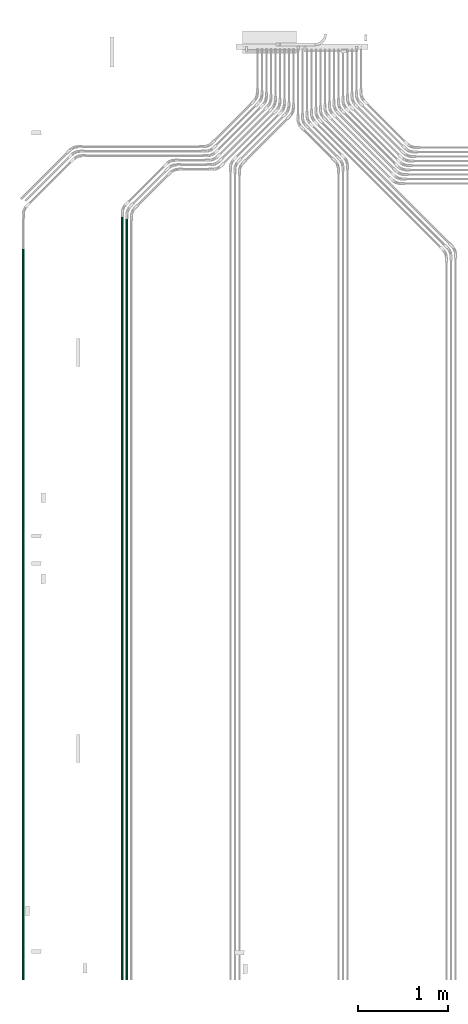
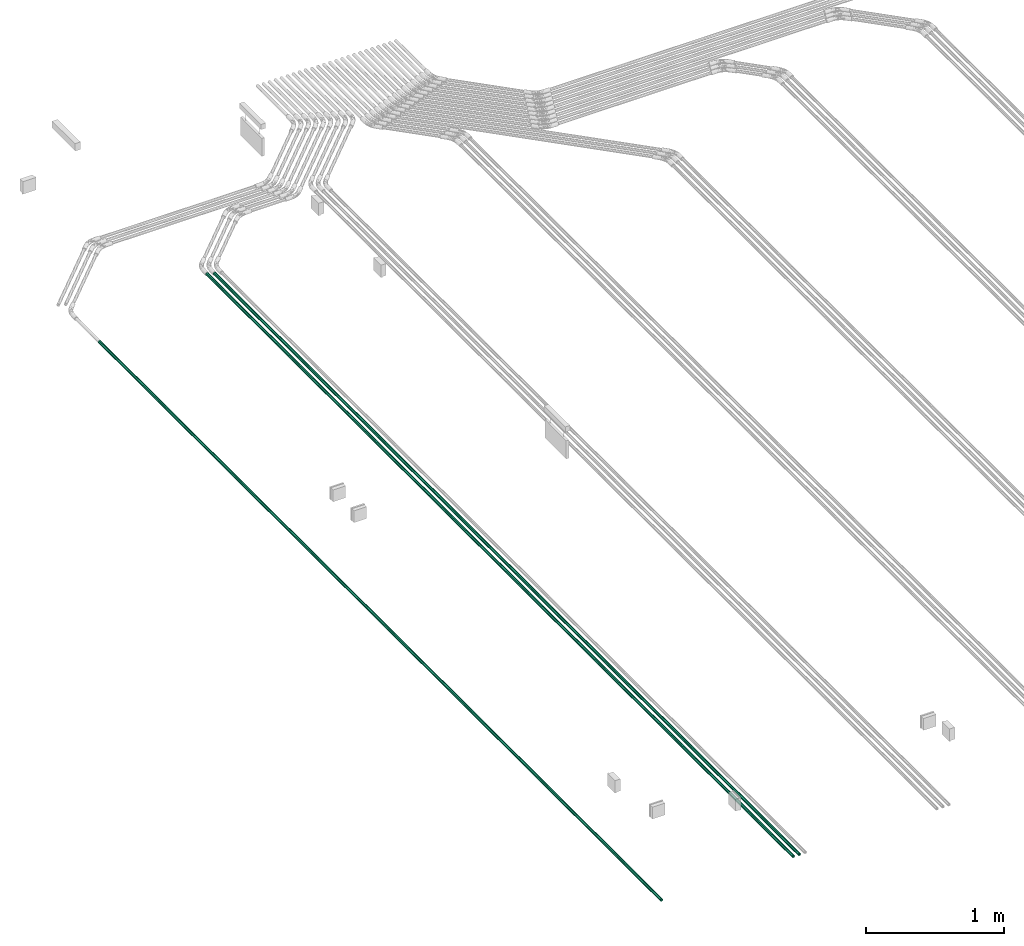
# One storey, part 31 of 51: 3 flow segments.
"""IFC2X3 building model written with IfcOpenShell, lengths in millimetres."""

from ifc_helpers import new_model, entity, si_unit, converted_unit, derived_unit, direction, frame, place, context, subcontext, project, spatial, faceted_brep, type_object, element, save


model = new_model("IFC2X3")

# Units and contexts
model_context = context("Model", 3, precision=0.01, world=frame((0.0, 4.29681676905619e-09, 0.0)), true_north=direction((4.01073788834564e-13, 1.0)))
plan_context = context("Plan", 3, precision=0.01, world=frame((0.0, 4.29681676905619e-09, 0.0)), true_north=direction((4.01073788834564e-13, 1.0)))
body_context = subcontext(model_context, "Body", "Model", "MODEL_VIEW")
ifc_project = project(units=[converted_unit("PLANEANGLEUNIT", "DEGREE", entity("IfcPositiveLengthMeasure", 0.0174532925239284), si_unit("PLANEANGLEUNIT", "RADIAN"), dimensions=[0, 0, 0, 0, 0, 0, 0]), si_unit("AREAUNIT", "SQUARE_METRE"), si_unit("LENGTHUNIT", "METRE", prefix="MILLI"), si_unit("MASSUNIT", "GRAM", prefix="KILO"), si_unit("POWERUNIT", "WATT"), si_unit("PRESSUREUNIT", "PASCAL"), si_unit("FORCEUNIT", "NEWTON", prefix="KILO"), si_unit("ELECTRICVOLTAGEUNIT", "VOLT"), si_unit("ELECTRICCURRENTUNIT", "AMPERE"), si_unit("THERMODYNAMICTEMPERATUREUNIT", "DEGREE_CELSIUS"), si_unit("TIMEUNIT", "SECOND"), si_unit("VOLUMEUNIT", "CUBIC_METRE"), derived_unit("LINEARVELOCITYUNIT", [(si_unit("LENGTHUNIT", "METRE"), 1), (si_unit("TIMEUNIT", "SECOND"), -1)]), derived_unit("VOLUMETRICFLOWRATEUNIT", [(si_unit("VOLUMEUNIT", "CUBIC_METRE"), 1), (si_unit("TIMEUNIT", "SECOND"), -1)]), derived_unit("THERMALTRANSMITTANCEUNIT", [(si_unit("POWERUNIT", "WATT"), 1), (si_unit("THERMODYNAMICTEMPERATUREUNIT", "KELVIN"), -1), (si_unit("AREAUNIT", "SQUARE_METRE"), -1)]), derived_unit("SOUNDPRESSUREUNIT", [(si_unit("PRESSUREUNIT", "PASCAL"), 1)])], contexts=[model_context, plan_context])

# Site, building, storey
site_placement = place(None, frame((0.0, -4.29681676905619e-09, 0.0), z_axis=(0.0, 0.0, 1.0), x_axis=(1.0, 0.0, 0.0)))
site = spatial("IfcSite", under=ifc_project, at=site_placement, Name="ENGM", CompositionType="ELEMENT")
building_placement = place(site_placement, frame((0.0, 4.29681676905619e-09, 0.0), z_axis=(0.0, 0.0, 1.0), x_axis=(1.0, 0.0, 0.0)))
building = spatial("IfcBuilding", under=site, at=building_placement, Name="TI", CompositionType="ELEMENT")
storey_placement = place(building_placement, frame((0.0, 0.0, 210900.0), z_axis=(0.0, 0.0, 1.0), x_axis=(1.0, 0.0, 0.0)))
storey = spatial("IfcBuildingStorey", under=building, at=storey_placement, Name="Nivå F", CompositionType="ELEMENT", Elevation=210900.0)

# Flow segments
cable_carrier_segment_type = type_object("IfcCableCarrierSegmentType", Name="Trekkerør, korrugert", PredefinedType="CONDUITSEGMENT")
flow_segment_1_placement = place(storey_placement, frame((598025.0, 697122.78573, -56.7999999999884), z_axis=(0.0, 0.0, 1.0), x_axis=(0.0, -1.0, 0.0)))
element("IfcFlowSegment", 1, at=flow_segment_1_placement, inside=storey, type_object=cable_carrier_segment_type, Name="Trekkerør, korrugert", context=body_context, shape_type="Brep", body=[
    faceted_brep([(8122.785730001, 10.5, 0.0), (8122.785730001, 10.3404814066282, -1.82330586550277), (0.0, 10.3404814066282, -1.82330586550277), (0.0, 10.5, 0.0), (8122.785730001, 9.86677251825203, -3.59121150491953), (0.0, 9.86677251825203, -3.59121150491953), (8122.785730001, 9.0932667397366, -5.25), (0.0, 9.0932667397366, -5.25), (8122.785730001, 8.04346665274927, -6.74926990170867), (0.0, 8.04346665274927, -6.74926990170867), (8122.785730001, 6.74926990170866, -8.04346665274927), (0.0, 6.74926990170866, -8.04346665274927), (8122.785730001, 5.25, -9.09326673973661), (0.0, 5.25, -9.09326673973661), (8122.785730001, 3.59121150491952, -9.86677251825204), (0.0, 3.59121150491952, -9.86677251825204), (8122.785730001, 1.82330586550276, -10.3404814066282), (0.0, 1.82330586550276, -10.3404814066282), (8122.785730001, -1.92881870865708e-15, -10.5), (0.0, -1.92881870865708e-15, -10.5), (8122.785730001, -1.82330586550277, -10.3404814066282), (0.0, -1.82330586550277, -10.3404814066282), (8122.785730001, -3.59121150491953, -9.86677251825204), (0.0, -3.59121150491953, -9.86677251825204), (8122.785730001, -5.25, -9.0932667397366), (0.0, -5.25, -9.0932667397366), (8122.785730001, -6.74926990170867, -8.04346665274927), (0.0, -6.74926990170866, -8.04346665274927), (8122.785730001, -8.04346665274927, -6.74926990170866), (0.0, -8.04346665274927, -6.74926990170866), (8122.785730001, -9.09326673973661, -5.25), (0.0, -9.09326673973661, -5.25), (8122.785730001, -9.86677251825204, -3.59121150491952), (0.0, -9.86677251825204, -3.59121150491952), (8122.785730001, -10.3404814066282, -1.82330586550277), (0.0, -10.3404814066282, -1.82330586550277), (8122.785730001, -10.5, 1.28587913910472e-15), (0.0, -10.5, 1.28587913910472e-15), (8122.785730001, -10.3404814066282, 1.82330586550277), (0.0, -10.3404814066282, 1.82330586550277), (8122.785730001, -9.86677251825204, 3.59121150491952), (0.0, -9.86677251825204, 3.59121150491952), (8122.785730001, -9.09326673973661, 5.25), (0.0, -9.09326673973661, 5.25), (8122.785730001, -8.04346665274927, 6.74926990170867), (0.0, -8.04346665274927, 6.74926990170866), (8122.785730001, -6.74926990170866, 8.04346665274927), (0.0, -6.74926990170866, 8.04346665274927), (8122.785730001, -5.25, 9.09326673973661), (0.0, -5.25, 9.09326673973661), (8122.785730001, -3.59121150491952, 9.86677251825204), (0.0, -3.59121150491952, 9.86677251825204), (8122.785730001, -1.82330586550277, 10.3404814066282), (0.0, -1.82330586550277, 10.3404814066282), (8122.785730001, 6.4293956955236e-16, 10.5), (0.0, 6.4293956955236e-16, 10.5), (8122.785730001, 1.82330586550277, 10.3404814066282), (0.0, 1.82330586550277, 10.3404814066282), (8122.785730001, 3.59121150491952, 9.86677251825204), (0.0, 3.59121150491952, 9.86677251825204), (8122.785730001, 5.25, 9.09326673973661), (0.0, 5.25, 9.09326673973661), (8122.785730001, 6.74926990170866, 8.04346665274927), (0.0, 6.74926990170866, 8.04346665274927), (8122.785730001, 8.04346665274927, 6.74926990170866), (0.0, 8.04346665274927, 6.74926990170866), (8122.785730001, 9.09326673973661, 5.25), (0.0, 9.09326673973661, 5.25), (8122.785730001, 9.86677251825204, 3.59121150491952), (0.0, 9.86677251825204, 3.59121150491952), (8122.785730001, 10.3404814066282, 1.82330586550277), (0.0, 10.3404814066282, 1.82330586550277), (8122.785730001, 12.3100969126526, -2.17060222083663), (8122.785730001, 12.5, 0.0), (0.0, 12.5, 0.0), (0.0, 12.3100969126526, -2.17060222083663), (8122.785730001, 12.3100969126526, 2.17060222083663), (0.0, 12.3100969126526, 2.17060222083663), (8122.785730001, 11.7461577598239, 4.27525179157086), (0.0, 11.7461577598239, 4.27525179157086), (8122.785730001, 10.8253175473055, 6.25), (0.0, 10.8253175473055, 6.25), (8122.785730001, 9.57555553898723, 8.03484512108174), (0.0, 9.57555553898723, 8.03484512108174), (8122.785730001, 8.03484512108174, 9.57555553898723), (0.0, 8.03484512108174, 9.57555553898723), (8122.785730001, 6.25, 10.8253175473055), (0.0, 6.25, 10.8253175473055), (8122.785730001, 4.27525179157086, 11.7461577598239), (0.0, 4.27525179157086, 11.7461577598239), (8122.785730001, 2.17060222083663, 12.3100969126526), (0.0, 2.17060222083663, 12.3100969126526), (8122.785730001, 7.65404249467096e-16, 12.5), (0.0, 7.65404249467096e-16, 12.5), (8122.785730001, -2.17060222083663, 12.3100969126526), (0.0, -2.17060222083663, 12.3100969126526), (8122.785730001, -4.27525179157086, 11.7461577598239), (0.0, -4.27525179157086, 11.7461577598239), (8122.785730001, -6.25, 10.8253175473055), (0.0, -6.25, 10.8253175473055), (8122.785730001, -8.03484512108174, 9.57555553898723), (0.0, -8.03484512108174, 9.57555553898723), (8122.785730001, -9.57555553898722, 8.03484512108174), (0.0, -9.57555553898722, 8.03484512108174), (8122.785730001, -10.8253175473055, 6.25), (0.0, -10.8253175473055, 6.25), (8122.785730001, -11.7461577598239, 4.27525179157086), (0.0, -11.7461577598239, 4.27525179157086), (8122.785730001, -12.3100969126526, 2.17060222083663), (0.0, -12.3100969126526, 2.17060222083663), (8122.785730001, -12.5, 1.53080849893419e-15), (0.0, -12.5, 1.53080849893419e-15), (8122.785730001, -12.3100969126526, -2.17060222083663), (0.0, -12.3100969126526, -2.17060222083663), (8122.785730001, -11.7461577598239, -4.27525179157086), (0.0, -11.7461577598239, -4.27525179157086), (8122.785730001, -10.8253175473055, -6.25), (0.0, -10.8253175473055, -6.25), (8122.785730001, -9.57555553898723, -8.03484512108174), (0.0, -9.57555553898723, -8.03484512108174), (8122.785730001, -8.03484512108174, -9.57555553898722), (0.0, -8.03484512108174, -9.57555553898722), (8122.785730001, -6.25000000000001, -10.8253175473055), (0.0, -6.25000000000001, -10.8253175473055), (8122.785730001, -4.27525179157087, -11.7461577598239), (0.0, -4.27525179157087, -11.7461577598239), (8122.785730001, -2.17060222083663, -12.3100969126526), (0.0, -2.17060222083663, -12.3100969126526), (8122.785730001, -2.29621274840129e-15, -12.5), (0.0, -2.29621274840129e-15, -12.5), (8122.785730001, 2.17060222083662, -12.3100969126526), (0.0, 2.17060222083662, -12.3100969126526), (8122.785730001, 4.27525179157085, -11.7461577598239), (0.0, 4.27525179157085, -11.7461577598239), (8122.785730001, 6.25, -10.8253175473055), (0.0, 6.25, -10.8253175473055), (8122.785730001, 8.03484512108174, -9.57555553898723), (0.0, 8.03484512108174, -9.57555553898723), (8122.785730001, 9.57555553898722, -8.03484512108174), (0.0, 9.57555553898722, -8.03484512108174), (8122.785730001, 10.8253175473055, -6.25000000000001), (0.0, 10.8253175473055, -6.25000000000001), (8122.785730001, 11.7461577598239, -4.27525179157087), (0.0, 11.7461577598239, -4.27525179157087)], [[[0, 1, 2, 3]], [[1, 4, 5, 2]], [[4, 6, 7, 5]], [[6, 8, 9, 7]], [[8, 10, 11, 9]], [[10, 12, 13, 11]], [[12, 14, 15, 13]], [[14, 16, 17, 15]], [[16, 18, 19, 17]], [[18, 20, 21, 19]], [[20, 22, 23, 21]], [[22, 24, 25, 23]], [[24, 26, 27, 25]], [[26, 28, 29, 27]], [[28, 30, 31, 29]], [[30, 32, 33, 31]], [[32, 34, 35, 33]], [[34, 36, 37, 35]], [[36, 38, 39, 37]], [[38, 40, 41, 39]], [[40, 42, 43, 41]], [[42, 44, 45, 43]], [[44, 46, 47, 45]], [[46, 48, 49, 47]], [[48, 50, 51, 49]], [[50, 52, 53, 51]], [[52, 54, 55, 53]], [[54, 56, 57, 55]], [[56, 58, 59, 57]], [[58, 60, 61, 59]], [[60, 62, 63, 61]], [[62, 64, 65, 63]], [[64, 66, 67, 65]], [[66, 68, 69, 67]], [[68, 70, 71, 69]], [[70, 0, 3, 71]], [[72, 73, 74, 75]], [[73, 76, 77, 74]], [[76, 78, 79, 77]], [[78, 80, 81, 79]], [[80, 82, 83, 81]], [[82, 84, 85, 83]], [[84, 86, 87, 85]], [[86, 88, 89, 87]], [[88, 90, 91, 89]], [[90, 92, 93, 91]], [[92, 94, 95, 93]], [[94, 96, 97, 95]], [[96, 98, 99, 97]], [[98, 100, 101, 99]], [[100, 102, 103, 101]], [[102, 104, 105, 103]], [[104, 106, 107, 105]], [[106, 108, 109, 107]], [[108, 110, 111, 109]], [[110, 112, 113, 111]], [[112, 114, 115, 113]], [[114, 116, 117, 115]], [[116, 118, 119, 117]], [[118, 120, 121, 119]], [[120, 122, 123, 121]], [[122, 124, 125, 123]], [[124, 126, 127, 125]], [[126, 128, 129, 127]], [[128, 130, 131, 129]], [[130, 132, 133, 131]], [[132, 134, 135, 133]], [[134, 136, 137, 135]], [[136, 138, 139, 137]], [[138, 140, 141, 139]], [[140, 142, 143, 141]], [[142, 72, 75, 143]], [[75, 74, 77, 79, 81, 83, 85, 87, 89, 91, 93, 95, 97, 99, 101, 103, 105, 107, 109, 111, 113, 115, 117, 119, 121, 123, 125, 127, 129, 131, 133, 135, 137, 139, 141, 143], [3, 2, 5, 7, 9, 11, 13, 15, 17, 19, 21, 23, 25, 27, 29, 31, 33, 35, 37, 39, 41, 43, 45, 47, 49, 51, 53, 55, 57, 59, 61, 63, 65, 67, 69, 71]], [[142, 140, 138, 136, 134, 132, 130, 128, 126, 124, 122, 120, 118, 116, 114, 112, 110, 108, 106, 104, 102, 100, 98, 96, 94, 92, 90, 88, 86, 84, 82, 80, 78, 76, 73, 72], [70, 68, 66, 64, 62, 60, 58, 56, 54, 52, 50, 48, 46, 44, 42, 40, 38, 36, 34, 32, 30, 28, 26, 24, 22, 20, 18, 16, 14, 12, 10, 8, 6, 4, 1, 0]]], orient=[[False], [False], [False], [False], [False], [False], [False], [False], [False], [False], [False], [False], [False], [False], [False], [False], [False], [False], [False], [False], [False], [False], [False], [False], [False], [False], [False], [False], [False], [False], [False], [False], [False], [False], [False], [False], [False], [False], [False], [False], [False], [False], [False], [False], [False], [False], [False], [False], [False], [False], [False], [False], [False], [False], [False], [False], [False], [False], [False], [False], [False], [False], [False], [False], [False], [False], [False], [False], [False], [False], [False], [False], [False, False], [False, False]]),
])
flow_segment_2_placement = place(storey_placement, frame((599175.0, 663175.58606, -56.7999999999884), z_axis=(0.0, 0.0, 1.0), x_axis=(0.0, 1.0, 0.0)))
element("IfcFlowSegment", 2, at=flow_segment_2_placement, inside=storey, type_object=cable_carrier_segment_type, Name="Trekkerør, korrugert", context=body_context, shape_type="Brep", body=[
    faceted_brep([(25824.413939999, 10.3404814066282, -1.82330586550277), (25824.413939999, 10.5, 0.0), (34277.0, 10.5, 0.0), (34277.0, 10.3404814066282, -1.82330586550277), (25824.413939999, 9.86677251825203, -3.59121150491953), (34277.0, 9.86677251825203, -3.59121150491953), (25824.413939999, 9.0932667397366, -5.25), (34277.0, 9.0932667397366, -5.25), (25824.413939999, 8.04346665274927, -6.74926990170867), (34277.0, 8.04346665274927, -6.74926990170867), (25824.413939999, 6.74926990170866, -8.04346665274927), (34277.0, 6.74926990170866, -8.04346665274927), (25824.413939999, 5.25, -9.09326673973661), (34277.0, 5.25, -9.09326673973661), (25824.413939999, 3.59121150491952, -9.86677251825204), (34277.0, 3.59121150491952, -9.86677251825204), (25824.413939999, 1.82330586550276, -10.3404814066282), (34277.0, 1.82330586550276, -10.3404814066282), (25824.413939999, -1.92881870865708e-15, -10.5), (34277.0, -1.92881870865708e-15, -10.5), (25824.413939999, -1.82330586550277, -10.3404814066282), (34277.0, -1.82330586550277, -10.3404814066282), (25824.413939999, -3.59121150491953, -9.86677251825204), (34277.0, -3.59121150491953, -9.86677251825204), (25824.413939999, -5.25, -9.0932667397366), (34277.0, -5.25, -9.0932667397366), (25824.413939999, -6.74926990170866, -8.04346665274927), (34277.0, -6.74926990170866, -8.04346665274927), (25824.413939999, -8.04346665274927, -6.74926990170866), (34277.0, -8.04346665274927, -6.74926990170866), (25824.413939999, -9.09326673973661, -5.25), (34277.0, -9.09326673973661, -5.25), (25824.413939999, -9.86677251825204, -3.59121150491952), (34277.0, -9.86677251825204, -3.59121150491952), (25824.413939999, -10.3404814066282, -1.82330586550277), (34277.0, -10.3404814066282, -1.82330586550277), (25824.413939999, -10.5, 1.28587913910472e-15), (34277.0, -10.5, 1.28587913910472e-15), (25824.413939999, -10.3404814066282, 1.82330586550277), (34277.0, -10.3404814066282, 1.82330586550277), (25824.413939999, -9.86677251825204, 3.59121150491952), (34277.0, -9.86677251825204, 3.59121150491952), (25824.413939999, -9.09326673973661, 5.25), (34277.0, -9.09326673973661, 5.25), (25824.413939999, -8.04346665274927, 6.74926990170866), (34277.0, -8.04346665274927, 6.74926990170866), (25824.413939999, -6.74926990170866, 8.04346665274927), (34277.0, -6.74926990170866, 8.04346665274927), (25824.413939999, -5.25, 9.09326673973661), (34277.0, -5.25, 9.09326673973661), (25824.413939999, -3.59121150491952, 9.86677251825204), (34277.0, -3.59121150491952, 9.86677251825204), (25824.413939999, -1.82330586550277, 10.3404814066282), (34277.0, -1.82330586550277, 10.3404814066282), (25824.413939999, 6.4293956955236e-16, 10.5), (34277.0, 6.4293956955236e-16, 10.5), (25824.413939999, 1.82330586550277, 10.3404814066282), (34277.0, 1.82330586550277, 10.3404814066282), (25824.413939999, 3.59121150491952, 9.86677251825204), (34277.0, 3.59121150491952, 9.86677251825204), (25824.413939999, 5.25, 9.09326673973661), (34277.0, 5.25, 9.09326673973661), (25824.413939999, 6.74926990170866, 8.04346665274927), (34277.0, 6.74926990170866, 8.04346665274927), (25824.413939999, 8.04346665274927, 6.74926990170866), (34277.0, 8.04346665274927, 6.74926990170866), (25824.413939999, 9.09326673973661, 5.25), (34277.0, 9.09326673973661, 5.25), (25824.413939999, 9.86677251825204, 3.59121150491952), (34277.0, 9.86677251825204, 3.59121150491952), (25824.413939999, 10.3404814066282, 1.82330586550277), (34277.0, 10.3404814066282, 1.82330586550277), (25824.413939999, 12.5, 0.0), (25824.413939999, 12.3100969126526, -2.17060222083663), (34277.0, 12.3100969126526, -2.17060222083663), (34277.0, 12.5, 0.0), (25824.413939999, 12.3100969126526, 2.17060222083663), (34277.0, 12.3100969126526, 2.17060222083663), (25824.413939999, 11.7461577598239, 4.27525179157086), (34277.0, 11.7461577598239, 4.27525179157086), (25824.413939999, 10.8253175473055, 6.25), (34277.0, 10.8253175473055, 6.25), (25824.413939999, 9.57555553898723, 8.03484512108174), (34277.0, 9.57555553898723, 8.03484512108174), (25824.413939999, 8.03484512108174, 9.57555553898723), (34277.0, 8.03484512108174, 9.57555553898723), (25824.413939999, 6.25, 10.8253175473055), (34277.0, 6.25, 10.8253175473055), (25824.413939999, 4.27525179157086, 11.7461577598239), (34277.0, 4.27525179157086, 11.7461577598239), (25824.413939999, 2.17060222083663, 12.3100969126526), (34277.0, 2.17060222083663, 12.3100969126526), (25824.413939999, 7.65404249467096e-16, 12.5), (34277.0, 7.65404249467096e-16, 12.5), (25824.413939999, -2.17060222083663, 12.3100969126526), (34277.0, -2.17060222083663, 12.3100969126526), (25824.413939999, -4.27525179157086, 11.7461577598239), (34277.0, -4.27525179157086, 11.7461577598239), (25824.413939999, -6.25, 10.8253175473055), (34277.0, -6.25, 10.8253175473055), (25824.413939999, -8.03484512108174, 9.57555553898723), (34277.0, -8.03484512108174, 9.57555553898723), (25824.413939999, -9.57555553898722, 8.03484512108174), (34277.0, -9.57555553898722, 8.03484512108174), (25824.413939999, -10.8253175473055, 6.25), (34277.0, -10.8253175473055, 6.25), (25824.413939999, -11.7461577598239, 4.27525179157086), (34277.0, -11.7461577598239, 4.27525179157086), (25824.413939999, -12.3100969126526, 2.17060222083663), (34277.0, -12.3100969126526, 2.17060222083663), (25824.413939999, -12.5, 1.53080849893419e-15), (34277.0, -12.5, 1.53080849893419e-15), (25824.413939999, -12.3100969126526, -2.17060222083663), (34277.0, -12.3100969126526, -2.17060222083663), (25824.413939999, -11.7461577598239, -4.27525179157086), (34277.0, -11.7461577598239, -4.27525179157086), (25824.413939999, -10.8253175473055, -6.25), (34277.0, -10.8253175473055, -6.25), (25824.413939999, -9.57555553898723, -8.03484512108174), (34277.0, -9.57555553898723, -8.03484512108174), (25824.413939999, -8.03484512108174, -9.57555553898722), (34277.0, -8.03484512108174, -9.57555553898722), (25824.413939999, -6.25000000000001, -10.8253175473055), (34277.0, -6.25000000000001, -10.8253175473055), (25824.413939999, -4.27525179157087, -11.7461577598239), (34277.0, -4.27525179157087, -11.7461577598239), (25824.413939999, -2.17060222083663, -12.3100969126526), (34277.0, -2.17060222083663, -12.3100969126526), (25824.413939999, -2.29621274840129e-15, -12.5), (34277.0, -2.29621274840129e-15, -12.5), (25824.413939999, 2.17060222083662, -12.3100969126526), (34277.0, 2.17060222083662, -12.3100969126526), (25824.413939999, 4.27525179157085, -11.7461577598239), (34277.0, 4.27525179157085, -11.7461577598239), (25824.413939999, 6.25, -10.8253175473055), (34277.0, 6.25, -10.8253175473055), (25824.413939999, 8.03484512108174, -9.57555553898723), (34277.0, 8.03484512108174, -9.57555553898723), (25824.413939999, 9.57555553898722, -8.03484512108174), (34277.0, 9.57555553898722, -8.03484512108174), (25824.413939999, 10.8253175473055, -6.25000000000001), (34277.0, 10.8253175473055, -6.25000000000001), (25824.413939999, 11.7461577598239, -4.27525179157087), (34277.0, 11.7461577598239, -4.27525179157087)], [[[0, 1, 2, 3]], [[4, 0, 3, 5]], [[6, 4, 5, 7]], [[8, 6, 7, 9]], [[10, 8, 9, 11]], [[12, 10, 11, 13]], [[14, 12, 13, 15]], [[16, 14, 15, 17]], [[18, 16, 17, 19]], [[20, 18, 19, 21]], [[22, 20, 21, 23]], [[24, 22, 23, 25]], [[26, 24, 25, 27]], [[28, 26, 27, 29]], [[30, 28, 29, 31]], [[32, 30, 31, 33]], [[34, 32, 33, 35]], [[36, 34, 35, 37]], [[38, 36, 37, 39]], [[40, 38, 39, 41]], [[42, 40, 41, 43]], [[44, 42, 43, 45]], [[46, 44, 45, 47]], [[48, 46, 47, 49]], [[50, 48, 49, 51]], [[52, 50, 51, 53]], [[54, 52, 53, 55]], [[56, 54, 55, 57]], [[58, 56, 57, 59]], [[60, 58, 59, 61]], [[62, 60, 61, 63]], [[64, 62, 63, 65]], [[66, 64, 65, 67]], [[68, 66, 67, 69]], [[70, 68, 69, 71]], [[1, 70, 71, 2]], [[72, 73, 74, 75]], [[76, 72, 75, 77]], [[78, 76, 77, 79]], [[80, 78, 79, 81]], [[82, 80, 81, 83]], [[84, 82, 83, 85]], [[86, 84, 85, 87]], [[88, 86, 87, 89]], [[90, 88, 89, 91]], [[92, 90, 91, 93]], [[94, 92, 93, 95]], [[96, 94, 95, 97]], [[98, 96, 97, 99]], [[100, 98, 99, 101]], [[102, 100, 101, 103]], [[104, 102, 103, 105]], [[106, 104, 105, 107]], [[108, 106, 107, 109]], [[110, 108, 109, 111]], [[112, 110, 111, 113]], [[114, 112, 113, 115]], [[116, 114, 115, 117]], [[118, 116, 117, 119]], [[120, 118, 119, 121]], [[122, 120, 121, 123]], [[124, 122, 123, 125]], [[126, 124, 125, 127]], [[128, 126, 127, 129]], [[130, 128, 129, 131]], [[132, 130, 131, 133]], [[134, 132, 133, 135]], [[136, 134, 135, 137]], [[138, 136, 137, 139]], [[140, 138, 139, 141]], [[142, 140, 141, 143]], [[73, 142, 143, 74]], [[75, 74, 143, 141, 139, 137, 135, 133, 131, 129, 127, 125, 123, 121, 119, 117, 115, 113, 111, 109, 107, 105, 103, 101, 99, 97, 95, 93, 91, 89, 87, 85, 83, 81, 79, 77], [2, 71, 69, 67, 65, 63, 61, 59, 57, 55, 53, 51, 49, 47, 45, 43, 41, 39, 37, 35, 33, 31, 29, 27, 25, 23, 21, 19, 17, 15, 13, 11, 9, 7, 5, 3]], [[76, 78, 80, 82, 84, 86, 88, 90, 92, 94, 96, 98, 100, 102, 104, 106, 108, 110, 112, 114, 116, 118, 120, 122, 124, 126, 128, 130, 132, 134, 136, 138, 140, 142, 73, 72], [4, 6, 8, 10, 12, 14, 16, 18, 20, 22, 24, 26, 28, 30, 32, 34, 36, 38, 40, 42, 44, 46, 48, 50, 52, 54, 56, 58, 60, 62, 64, 66, 68, 70, 1, 0]]], orient=[[False], [False], [False], [False], [False], [False], [False], [False], [False], [False], [False], [False], [False], [False], [False], [False], [False], [False], [False], [False], [False], [False], [False], [False], [False], [False], [False], [False], [False], [False], [False], [False], [False], [False], [False], [False], [False], [False], [False], [False], [False], [False], [False], [False], [False], [False], [False], [False], [False], [False], [False], [False], [False], [False], [False], [False], [False], [False], [False], [False], [False], [False], [False], [False], [False], [False], [False], [False], [False], [False], [False], [False], [False, False], [False, False]]),
])
flow_segment_3_placement = place(storey_placement, frame((599125.0, 663154.87539, -56.7999999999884), z_axis=(0.0, 0.0, 1.0), x_axis=(0.0, 1.0, 0.0)))
element("IfcFlowSegment", 3, at=flow_segment_3_placement, inside=storey, type_object=cable_carrier_segment_type, Name="Trekkerør, korrugert", context=body_context, shape_type="Brep", body=[
    faceted_brep([(25845.1246099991, 10.3404814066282, -1.82330586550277), (25845.1246099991, 10.5, 0.0), (34318.5, 10.5, 0.0), (34318.5, 10.3404814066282, -1.82330586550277), (25845.1246099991, 9.86677251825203, -3.59121150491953), (34318.5, 9.86677251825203, -3.59121150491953), (25845.1246099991, 9.0932667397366, -5.25), (34318.5, 9.0932667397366, -5.25), (25845.1246099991, 8.04346665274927, -6.74926990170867), (34318.5, 8.04346665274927, -6.74926990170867), (25845.1246099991, 6.74926990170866, -8.04346665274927), (34318.5, 6.74926990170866, -8.04346665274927), (25845.1246099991, 5.25, -9.09326673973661), (34318.5, 5.25, -9.09326673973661), (25845.1246099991, 3.59121150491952, -9.86677251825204), (34318.5, 3.59121150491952, -9.86677251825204), (25845.1246099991, 1.82330586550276, -10.3404814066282), (34318.5, 1.82330586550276, -10.3404814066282), (25845.1246099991, -1.92881870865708e-15, -10.5), (34318.5, -1.92881870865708e-15, -10.5), (25845.1246099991, -1.82330586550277, -10.3404814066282), (34318.5, -1.82330586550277, -10.3404814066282), (25845.1246099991, -3.59121150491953, -9.86677251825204), (34318.5, -3.59121150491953, -9.86677251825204), (25845.1246099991, -5.25, -9.0932667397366), (34318.5, -5.25, -9.0932667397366), (25845.1246099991, -6.74926990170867, -8.04346665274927), (34318.5, -6.74926990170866, -8.04346665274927), (25845.1246099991, -8.04346665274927, -6.74926990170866), (34318.5, -8.04346665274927, -6.74926990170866), (25845.1246099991, -9.09326673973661, -5.25), (34318.5, -9.09326673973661, -5.25), (25845.1246099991, -9.86677251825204, -3.59121150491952), (34318.5, -9.86677251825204, -3.59121150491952), (25845.1246099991, -10.3404814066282, -1.82330586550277), (34318.5, -10.3404814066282, -1.82330586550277), (25845.1246099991, -10.5, 1.28587913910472e-15), (34318.5, -10.5, 1.28587913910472e-15), (25845.1246099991, -10.3404814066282, 1.82330586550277), (34318.5, -10.3404814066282, 1.82330586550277), (25845.1246099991, -9.86677251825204, 3.59121150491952), (34318.5, -9.86677251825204, 3.59121150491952), (25845.1246099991, -9.09326673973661, 5.25), (34318.5, -9.09326673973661, 5.25), (25845.1246099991, -8.04346665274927, 6.74926990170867), (34318.5, -8.04346665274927, 6.74926990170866), (25845.1246099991, -6.74926990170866, 8.04346665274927), (34318.5, -6.74926990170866, 8.04346665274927), (25845.1246099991, -5.25, 9.09326673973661), (34318.5, -5.25, 9.09326673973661), (25845.1246099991, -3.59121150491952, 9.86677251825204), (34318.5, -3.59121150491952, 9.86677251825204), (25845.1246099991, -1.82330586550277, 10.3404814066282), (34318.5, -1.82330586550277, 10.3404814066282), (25845.1246099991, 6.42939569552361e-16, 10.5), (34318.5, 6.4293956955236e-16, 10.5), (25845.1246099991, 1.82330586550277, 10.3404814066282), (34318.5, 1.82330586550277, 10.3404814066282), (25845.1246099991, 3.59121150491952, 9.86677251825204), (34318.5, 3.59121150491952, 9.86677251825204), (25845.1246099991, 5.25, 9.09326673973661), (34318.5, 5.25, 9.09326673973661), (25845.1246099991, 6.74926990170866, 8.04346665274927), (34318.5, 6.74926990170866, 8.04346665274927), (25845.1246099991, 8.04346665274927, 6.74926990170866), (34318.5, 8.04346665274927, 6.74926990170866), (25845.1246099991, 9.09326673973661, 5.25), (34318.5, 9.09326673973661, 5.25), (25845.1246099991, 9.86677251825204, 3.59121150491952), (34318.5, 9.86677251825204, 3.59121150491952), (25845.1246099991, 10.3404814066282, 1.82330586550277), (34318.5, 10.3404814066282, 1.82330586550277), (25845.1246099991, 12.5, 0.0), (25845.1246099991, 12.3100969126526, -2.17060222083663), (34318.5, 12.3100969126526, -2.17060222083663), (34318.5, 12.5, 0.0), (25845.1246099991, 12.3100969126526, 2.17060222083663), (34318.5, 12.3100969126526, 2.17060222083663), (25845.1246099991, 11.7461577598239, 4.27525179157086), (34318.5, 11.7461577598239, 4.27525179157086), (25845.1246099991, 10.8253175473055, 6.25), (34318.5, 10.8253175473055, 6.25), (25845.1246099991, 9.57555553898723, 8.03484512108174), (34318.5, 9.57555553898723, 8.03484512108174), (25845.1246099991, 8.03484512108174, 9.57555553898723), (34318.5, 8.03484512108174, 9.57555553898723), (25845.1246099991, 6.25, 10.8253175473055), (34318.5, 6.25, 10.8253175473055), (25845.1246099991, 4.27525179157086, 11.7461577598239), (34318.5, 4.27525179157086, 11.7461577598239), (25845.1246099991, 2.17060222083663, 12.3100969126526), (34318.5, 2.17060222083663, 12.3100969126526), (25845.1246099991, 7.65404249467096e-16, 12.5), (34318.5, 7.65404249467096e-16, 12.5), (25845.1246099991, -2.17060222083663, 12.3100969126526), (34318.5, -2.17060222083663, 12.3100969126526), (25845.1246099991, -4.27525179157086, 11.7461577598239), (34318.5, -4.27525179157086, 11.7461577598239), (25845.1246099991, -6.25, 10.8253175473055), (34318.5, -6.25, 10.8253175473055), (25845.1246099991, -8.03484512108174, 9.57555553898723), (34318.5, -8.03484512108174, 9.57555553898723), (25845.1246099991, -9.57555553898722, 8.03484512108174), (34318.5, -9.57555553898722, 8.03484512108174), (25845.1246099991, -10.8253175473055, 6.25), (34318.5, -10.8253175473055, 6.25), (25845.1246099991, -11.7461577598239, 4.27525179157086), (34318.5, -11.7461577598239, 4.27525179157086), (25845.1246099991, -12.3100969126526, 2.17060222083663), (34318.5, -12.3100969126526, 2.17060222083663), (25845.1246099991, -12.5, 1.53080849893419e-15), (34318.5, -12.5, 1.53080849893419e-15), (25845.1246099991, -12.3100969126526, -2.17060222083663), (34318.5, -12.3100969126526, -2.17060222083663), (25845.1246099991, -11.7461577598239, -4.27525179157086), (34318.5, -11.7461577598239, -4.27525179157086), (25845.1246099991, -10.8253175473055, -6.25), (34318.5, -10.8253175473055, -6.25), (25845.1246099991, -9.57555553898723, -8.03484512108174), (34318.5, -9.57555553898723, -8.03484512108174), (25845.1246099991, -8.03484512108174, -9.57555553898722), (34318.5, -8.03484512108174, -9.57555553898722), (25845.1246099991, -6.25000000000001, -10.8253175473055), (34318.5, -6.25000000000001, -10.8253175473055), (25845.1246099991, -4.27525179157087, -11.7461577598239), (34318.5, -4.27525179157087, -11.7461577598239), (25845.1246099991, -2.17060222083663, -12.3100969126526), (34318.5, -2.17060222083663, -12.3100969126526), (25845.1246099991, -2.29621274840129e-15, -12.5), (34318.5, -2.29621274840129e-15, -12.5), (25845.1246099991, 2.17060222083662, -12.3100969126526), (34318.5, 2.17060222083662, -12.3100969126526), (25845.1246099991, 4.27525179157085, -11.7461577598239), (34318.5, 4.27525179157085, -11.7461577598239), (25845.1246099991, 6.25, -10.8253175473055), (34318.5, 6.25, -10.8253175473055), (25845.1246099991, 8.03484512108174, -9.57555553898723), (34318.5, 8.03484512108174, -9.57555553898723), (25845.1246099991, 9.57555553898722, -8.03484512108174), (34318.5, 9.57555553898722, -8.03484512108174), (25845.1246099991, 10.8253175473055, -6.25000000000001), (34318.5, 10.8253175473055, -6.25000000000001), (25845.1246099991, 11.7461577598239, -4.27525179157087), (34318.5, 11.7461577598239, -4.27525179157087)], [[[0, 1, 2, 3]], [[4, 0, 3, 5]], [[6, 4, 5, 7]], [[8, 6, 7, 9]], [[10, 8, 9, 11]], [[12, 10, 11, 13]], [[14, 12, 13, 15]], [[16, 14, 15, 17]], [[18, 16, 17, 19]], [[20, 18, 19, 21]], [[22, 20, 21, 23]], [[24, 22, 23, 25]], [[26, 24, 25, 27]], [[28, 26, 27, 29]], [[30, 28, 29, 31]], [[32, 30, 31, 33]], [[34, 32, 33, 35]], [[36, 34, 35, 37]], [[38, 36, 37, 39]], [[40, 38, 39, 41]], [[42, 40, 41, 43]], [[44, 42, 43, 45]], [[46, 44, 45, 47]], [[48, 46, 47, 49]], [[50, 48, 49, 51]], [[52, 50, 51, 53]], [[54, 52, 53, 55]], [[56, 54, 55, 57]], [[58, 56, 57, 59]], [[60, 58, 59, 61]], [[62, 60, 61, 63]], [[64, 62, 63, 65]], [[66, 64, 65, 67]], [[68, 66, 67, 69]], [[70, 68, 69, 71]], [[1, 70, 71, 2]], [[72, 73, 74, 75]], [[76, 72, 75, 77]], [[78, 76, 77, 79]], [[80, 78, 79, 81]], [[82, 80, 81, 83]], [[84, 82, 83, 85]], [[86, 84, 85, 87]], [[88, 86, 87, 89]], [[90, 88, 89, 91]], [[92, 90, 91, 93]], [[94, 92, 93, 95]], [[96, 94, 95, 97]], [[98, 96, 97, 99]], [[100, 98, 99, 101]], [[102, 100, 101, 103]], [[104, 102, 103, 105]], [[106, 104, 105, 107]], [[108, 106, 107, 109]], [[110, 108, 109, 111]], [[112, 110, 111, 113]], [[114, 112, 113, 115]], [[116, 114, 115, 117]], [[118, 116, 117, 119]], [[120, 118, 119, 121]], [[122, 120, 121, 123]], [[124, 122, 123, 125]], [[126, 124, 125, 127]], [[128, 126, 127, 129]], [[130, 128, 129, 131]], [[132, 130, 131, 133]], [[134, 132, 133, 135]], [[136, 134, 135, 137]], [[138, 136, 137, 139]], [[140, 138, 139, 141]], [[142, 140, 141, 143]], [[73, 142, 143, 74]], [[75, 74, 143, 141, 139, 137, 135, 133, 131, 129, 127, 125, 123, 121, 119, 117, 115, 113, 111, 109, 107, 105, 103, 101, 99, 97, 95, 93, 91, 89, 87, 85, 83, 81, 79, 77], [2, 71, 69, 67, 65, 63, 61, 59, 57, 55, 53, 51, 49, 47, 45, 43, 41, 39, 37, 35, 33, 31, 29, 27, 25, 23, 21, 19, 17, 15, 13, 11, 9, 7, 5, 3]], [[76, 78, 80, 82, 84, 86, 88, 90, 92, 94, 96, 98, 100, 102, 104, 106, 108, 110, 112, 114, 116, 118, 120, 122, 124, 126, 128, 130, 132, 134, 136, 138, 140, 142, 73, 72], [4, 6, 8, 10, 12, 14, 16, 18, 20, 22, 24, 26, 28, 30, 32, 34, 36, 38, 40, 42, 44, 46, 48, 50, 52, 54, 56, 58, 60, 62, 64, 66, 68, 70, 1, 0]]], orient=[[False], [False], [False], [False], [False], [False], [False], [False], [False], [False], [False], [False], [False], [False], [False], [False], [False], [False], [False], [False], [False], [False], [False], [False], [False], [False], [False], [False], [False], [False], [False], [False], [False], [False], [False], [False], [False], [False], [False], [False], [False], [False], [False], [False], [False], [False], [False], [False], [False], [False], [False], [False], [False], [False], [False], [False], [False], [False], [False], [False], [False], [False], [False], [False], [False], [False], [False], [False], [False], [False], [False], [False], [False, False], [False, False]]),
])

save(model, "model.ifc")
